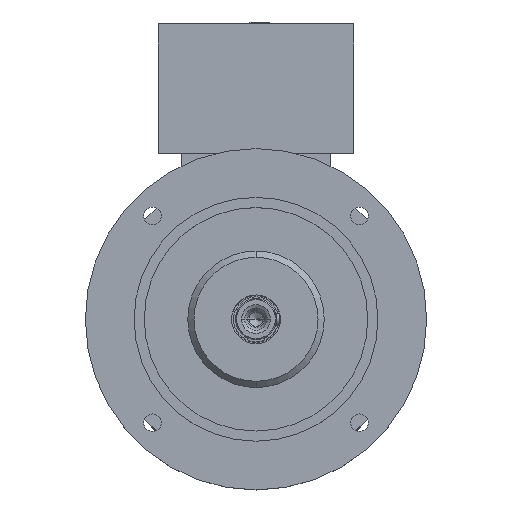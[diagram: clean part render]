
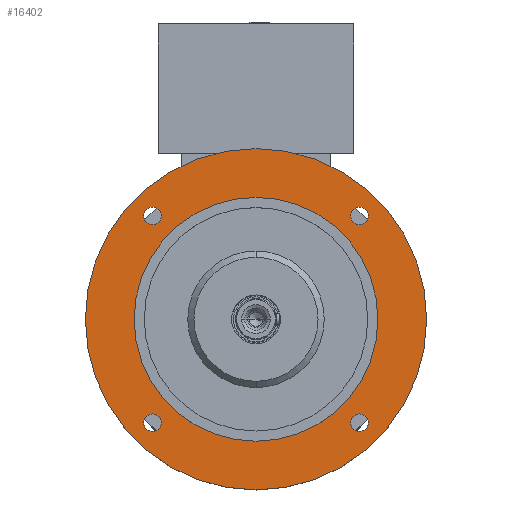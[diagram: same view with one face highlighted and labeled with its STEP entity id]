
A CAD part, top view. The second image highlights one B-rep face of the part: STEP entity #16402.
In plain terms, the highlighted planar face has unit normal (0, 0, 1).
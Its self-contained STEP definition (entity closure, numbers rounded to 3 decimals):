
#14 = CIRCLE ( 'NONE', #16394, 125. ) ;
#320 = VERTEX_POINT ( 'NONE', #5043 ) ;
#328 = VERTEX_POINT ( 'NONE', #15782 ) ;
#414 = DIRECTION ( 'NONE',  ( 1., 0., 0. ) ) ;
#485 = DIRECTION ( 'NONE',  ( 0., 0., -1. ) ) ;
#518 = ORIENTED_EDGE ( 'NONE', *, *, #22746, .T. ) ;
#617 = CARTESIAN_POINT ( 'NONE',  ( -106.066, -106.066, 235. ) ) ;
#971 = CARTESIAN_POINT ( 'NONE',  ( -175., 0., 235. ) ) ;
#1906 = EDGE_CURVE ( 'NONE', #21941, #10192, #5830, .T. ) ;
#2051 = DIRECTION ( 'NONE',  ( 0., 0., -1. ) ) ;
#2084 = CIRCLE ( 'NONE', #19124, 9. ) ;
#2366 = CIRCLE ( 'NONE', #19891, 9. ) ;
#3179 = VERTEX_POINT ( 'NONE', #5981 ) ;
#3229 = DIRECTION ( 'NONE',  ( 0., 0., -1. ) ) ;
#3382 = CARTESIAN_POINT ( 'NONE',  ( 106.066, -106.066, 235. ) ) ;
#3938 = CIRCLE ( 'NONE', #13045, 9. ) ;
#4081 = DIRECTION ( 'NONE',  ( 1., 0., 0. ) ) ;
#4966 = EDGE_CURVE ( 'NONE', #10192, #21941, #15962, .T. ) ;
#5043 = CARTESIAN_POINT ( 'NONE',  ( 115.066, -106.066, 235. ) ) ;
#5130 = DIRECTION ( 'NONE',  ( 0., 0., -1. ) ) ;
#5209 = ORIENTED_EDGE ( 'NONE', *, *, #21289, .T. ) ;
#5220 = ORIENTED_EDGE ( 'NONE', *, *, #1906, .T. ) ;
#5319 = EDGE_LOOP ( 'NONE', ( #6865, #9030 ) ) ;
#5362 = EDGE_LOOP ( 'NONE', ( #8129, #5220 ) ) ;
#5795 = CIRCLE ( 'NONE', #22428, 175. ) ;
#5830 = CIRCLE ( 'NONE', #18946, 9. ) ;
#5981 = CARTESIAN_POINT ( 'NONE',  ( -115.066, -106.066, 235. ) ) ;
#6267 = VERTEX_POINT ( 'NONE', #8027 ) ;
#6354 = EDGE_CURVE ( 'NONE', #8099, #328, #9866, .T. ) ;
#6671 = FACE_BOUND ( 'NONE', #5319, .T. ) ;
#6736 = DIRECTION ( 'NONE',  ( 1., 0., 0. ) ) ;
#6749 = AXIS2_PLACEMENT_3D ( 'NONE', #7181, #12706, #19429 ) ;
#6865 = ORIENTED_EDGE ( 'NONE', *, *, #7798, .T. ) ;
#7047 = ORIENTED_EDGE ( 'NONE', *, *, #6354, .T. ) ;
#7181 = CARTESIAN_POINT ( 'NONE',  ( 106.066, 106.066, 235. ) ) ;
#7413 = VERTEX_POINT ( 'NONE', #10186 ) ;
#7798 = EDGE_CURVE ( 'NONE', #6267, #12813, #21162, .T. ) ;
#8027 = CARTESIAN_POINT ( 'NONE',  ( -97.066, 106.066, 235. ) ) ;
#8099 = VERTEX_POINT ( 'NONE', #971 ) ;
#8129 = ORIENTED_EDGE ( 'NONE', *, *, #4966, .T. ) ;
#8390 = EDGE_CURVE ( 'NONE', #8724, #7413, #22785, .T. ) ;
#8404 = DIRECTION ( 'NONE',  ( 0., 0., 1. ) ) ;
#8555 = DIRECTION ( 'NONE',  ( 0., 0., 1. ) ) ;
#8557 = CARTESIAN_POINT ( 'NONE',  ( 0., 0., 235. ) ) ;
#8590 = FACE_OUTER_BOUND ( 'NONE', #10163, .T. ) ;
#8602 = DIRECTION ( 'NONE',  ( 1., 0., 0. ) ) ;
#8724 = VERTEX_POINT ( 'NONE', #13324 ) ;
#8785 = DIRECTION ( 'NONE',  ( 1., 0., 0. ) ) ;
#9030 = ORIENTED_EDGE ( 'NONE', *, *, #10296, .T. ) ;
#9172 = DIRECTION ( 'NONE',  ( -1., 0., 0. ) ) ;
#9308 = AXIS2_PLACEMENT_3D ( 'NONE', #12388, #12312, #8785 ) ;
#9866 = CIRCLE ( 'NONE', #17523, 175. ) ;
#10163 = EDGE_LOOP ( 'NONE', ( #7047, #5209 ) ) ;
#10186 = CARTESIAN_POINT ( 'NONE',  ( 125., 0., 235. ) ) ;
#10192 = VERTEX_POINT ( 'NONE', #17687 ) ;
#10296 = EDGE_CURVE ( 'NONE', #12813, #6267, #2084, .T. ) ;
#10402 = EDGE_CURVE ( 'NONE', #14518, #320, #2366, .T. ) ;
#10628 = DIRECTION ( 'NONE',  ( -1., 0., 0. ) ) ;
#10934 = DIRECTION ( 'NONE',  ( 0., 0., -1. ) ) ;
#11105 = EDGE_LOOP ( 'NONE', ( #18205, #518 ) ) ;
#11121 = CIRCLE ( 'NONE', #9308, 9. ) ;
#11424 = DIRECTION ( 'NONE',  ( 0., 0., -1. ) ) ;
#11453 = VERTEX_POINT ( 'NONE', #13219 ) ;
#11539 = ORIENTED_EDGE ( 'NONE', *, *, #10402, .T. ) ;
#12134 = CARTESIAN_POINT ( 'NONE',  ( 0., 0., 235. ) ) ;
#12312 = DIRECTION ( 'NONE',  ( 0., 0., -1. ) ) ;
#12388 = CARTESIAN_POINT ( 'NONE',  ( -106.066, -106.066, 235. ) ) ;
#12454 = CARTESIAN_POINT ( 'NONE',  ( 0., 0., 235. ) ) ;
#12529 = CARTESIAN_POINT ( 'NONE',  ( -106.066, 106.066, 235. ) ) ;
#12706 = DIRECTION ( 'NONE',  ( 0., 0., -1. ) ) ;
#12712 = FACE_BOUND ( 'NONE', #15327, .T. ) ;
#12813 = VERTEX_POINT ( 'NONE', #15918 ) ;
#13045 = AXIS2_PLACEMENT_3D ( 'NONE', #617, #21549, #17974 ) ;
#13219 = CARTESIAN_POINT ( 'NONE',  ( -97.066, -106.066, 235. ) ) ;
#13324 = CARTESIAN_POINT ( 'NONE',  ( -125., 0., 235. ) ) ;
#13517 = FACE_BOUND ( 'NONE', #11105, .T. ) ;
#13753 = DIRECTION ( 'NONE',  ( -1., 0., 0. ) ) ;
#13930 = CARTESIAN_POINT ( 'NONE',  ( -106.066, 106.066, 235. ) ) ;
#13939 = CARTESIAN_POINT ( 'NONE',  ( 106.066, 106.066, 235. ) ) ;
#14081 = FACE_BOUND ( 'NONE', #5362, .T. ) ;
#14518 = VERTEX_POINT ( 'NONE', #17601 ) ;
#14580 = EDGE_CURVE ( 'NONE', #320, #14518, #18037, .T. ) ;
#14707 = CARTESIAN_POINT ( 'NONE',  ( 97.066, 106.066, 235. ) ) ;
#15327 = EDGE_LOOP ( 'NONE', ( #21042, #19720 ) ) ;
#15446 = CARTESIAN_POINT ( 'NONE',  ( 0., 175., 235. ) ) ;
#15513 = PLANE ( 'NONE',  #21736 ) ;
#15782 = CARTESIAN_POINT ( 'NONE',  ( 175., 0., 235. ) ) ;
#15918 = CARTESIAN_POINT ( 'NONE',  ( -115.066, 106.066, 235. ) ) ;
#15962 = CIRCLE ( 'NONE', #6749, 9. ) ;
#16394 = AXIS2_PLACEMENT_3D ( 'NONE', #20131, #11424, #20277 ) ;
#16402 = ADVANCED_FACE ( 'NONE', ( #8590, #12712, #19042, #14081, #6671, #13517 ), #15513, .T. ) ;
#16962 = EDGE_CURVE ( 'NONE', #7413, #8724, #14, .T. ) ;
#17014 = AXIS2_PLACEMENT_3D ( 'NONE', #18210, #485, #4081 ) ;
#17082 = DIRECTION ( 'NONE',  ( 1., 0., 0. ) ) ;
#17523 = AXIS2_PLACEMENT_3D ( 'NONE', #8557, #8404, #13753 ) ;
#17561 = AXIS2_PLACEMENT_3D ( 'NONE', #12454, #2051, #9172 ) ;
#17601 = CARTESIAN_POINT ( 'NONE',  ( 97.066, -106.066, 235. ) ) ;
#17687 = CARTESIAN_POINT ( 'NONE',  ( 115.066, 106.066, 235. ) ) ;
#17974 = DIRECTION ( 'NONE',  ( 1., 0., 0. ) ) ;
#18037 = CIRCLE ( 'NONE', #17014, 9. ) ;
#18205 = ORIENTED_EDGE ( 'NONE', *, *, #20428, .T. ) ;
#18210 = CARTESIAN_POINT ( 'NONE',  ( 106.066, -106.066, 235. ) ) ;
#18369 = ORIENTED_EDGE ( 'NONE', *, *, #14580, .T. ) ;
#18946 = AXIS2_PLACEMENT_3D ( 'NONE', #13939, #5130, #21165 ) ;
#19042 = FACE_BOUND ( 'NONE', #21432, .T. ) ;
#19124 = AXIS2_PLACEMENT_3D ( 'NONE', #12529, #10934, #414 ) ;
#19429 = DIRECTION ( 'NONE',  ( 1., 0., 0. ) ) ;
#19482 = DIRECTION ( 'NONE',  ( 0., 0., 1. ) ) ;
#19720 = ORIENTED_EDGE ( 'NONE', *, *, #16962, .T. ) ;
#19891 = AXIS2_PLACEMENT_3D ( 'NONE', #3382, #3229, #8602 ) ;
#20131 = CARTESIAN_POINT ( 'NONE',  ( 0., 0., 235. ) ) ;
#20277 = DIRECTION ( 'NONE',  ( -1., 0., 0. ) ) ;
#20428 = EDGE_CURVE ( 'NONE', #11453, #3179, #3938, .T. ) ;
#21042 = ORIENTED_EDGE ( 'NONE', *, *, #8390, .T. ) ;
#21144 = AXIS2_PLACEMENT_3D ( 'NONE', #13930, #21150, #6736 ) ;
#21150 = DIRECTION ( 'NONE',  ( 0., 0., -1. ) ) ;
#21162 = CIRCLE ( 'NONE', #21144, 9. ) ;
#21165 = DIRECTION ( 'NONE',  ( 1., 0., 0. ) ) ;
#21289 = EDGE_CURVE ( 'NONE', #328, #8099, #5795, .T. ) ;
#21432 = EDGE_LOOP ( 'NONE', ( #18369, #11539 ) ) ;
#21549 = DIRECTION ( 'NONE',  ( 0., 0., -1. ) ) ;
#21736 = AXIS2_PLACEMENT_3D ( 'NONE', #15446, #8555, #17082 ) ;
#21941 = VERTEX_POINT ( 'NONE', #14707 ) ;
#22428 = AXIS2_PLACEMENT_3D ( 'NONE', #12134, #19482, #10628 ) ;
#22746 = EDGE_CURVE ( 'NONE', #3179, #11453, #11121, .T. ) ;
#22785 = CIRCLE ( 'NONE', #17561, 125. ) ;
